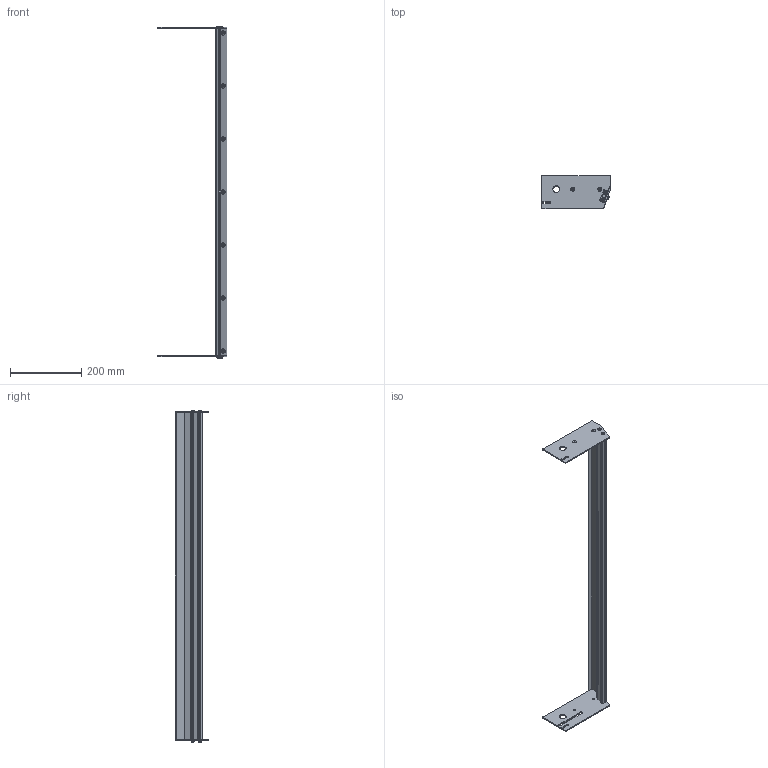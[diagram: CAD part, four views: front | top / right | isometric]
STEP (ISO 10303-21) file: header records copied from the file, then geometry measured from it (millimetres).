
FILE_DESCRIPTION((''),'2;1');
FILE_NAME('351199-36_ASM','2023-03-15T',('jenni.wallner'),(''),'PRO/ENGINEER BY PARAMETRIC TECHNOLOGY CORPORATION, 2012420','PRO/ENGINEER BY PARAMETRIC TECHNOLOGY CORPORATION, 2012420','');
FILE_SCHEMA(('CONFIG_CONTROL_DESIGN'));
Length unit declared in the file: inch
Products named in the file (10): 990603M; 351201; 9506XXM_950612M; 605279P; 9505XXM_950512M; 351203-WW_351203-36; 351202-WW_351202-36; 351200_DEFAULT_AS_MACHINED_; ASM0001_ASM; 351199-36_ASM
Assembly tree (30 placements, depth 3):
  351199-36_ASM
    ASM0001_ASM
      990603M  x7
      351201
      9506XXM_950612M  x7
      605279P  x7
      9505XXM_950512M  x4
      351203-WW_351203-36
      351202-WW_351202-36
      351200_DEFAULT_AS_MACHINED_
Bounding box: 196.11 x 93.08 x 933.49 mm (x, y, z)
Volume: 473097.6 mm3; surface area: 386931.2 mm2
Topology: 29 solids, 29 shells, 542 faces, 1274 edges, 812 vertices
Faces by surface type: plane 250, cylinder 184, cone 108
Entity records: 8632 total; most frequent: DIRECTION 1571, CARTESIAN_POINT 1565, ORIENTED_EDGE 1342, EDGE_CURVE 671, AXIS2_PLACEMENT_3D 596, VERTEX_POINT 440, VECTOR 379, LINE 379
